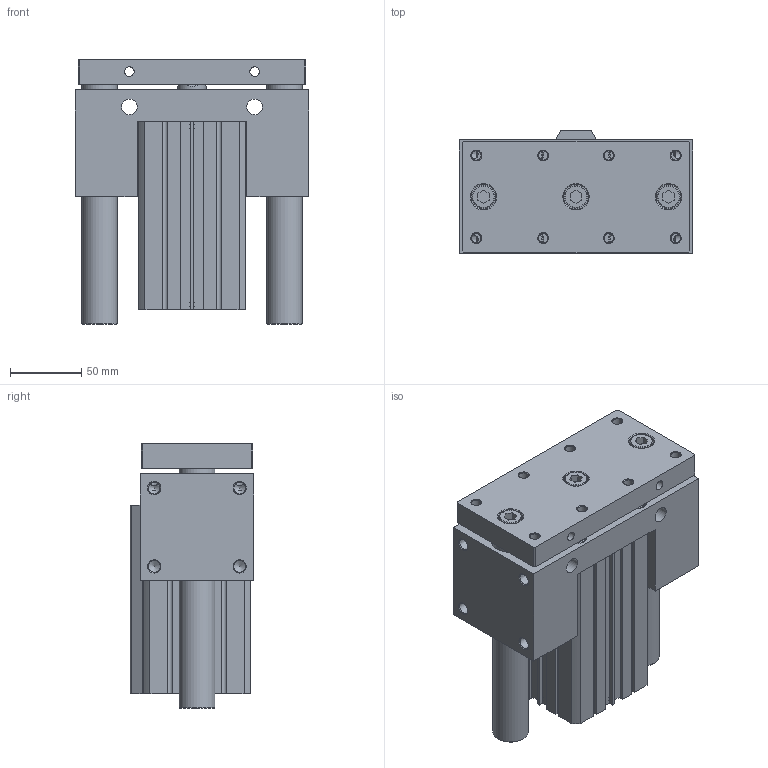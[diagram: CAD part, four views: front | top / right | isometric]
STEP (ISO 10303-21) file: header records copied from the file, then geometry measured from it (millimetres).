
FILE_DESCRIPTION((''),'2;1');
FILE_NAME('I:\3D電子目錄\氣缸\JCB\JCB\JCB63-S\JCB63x90-S.stp','2007-09-01T15:32:41',('Administrator'),(''),'Autodesk Inventor 11','Autodesk Inventor 11','');
FILE_SCHEMA(('AUTOMOTIVE_DESIGN { 1 0 10303 214 1 1 1 1 }'));
Length unit declared in the file: millimetre
Products named in the file (1): JCB63
Bounding box: 164 x 87 x 185.5 mm (x, y, z)
Volume: 1603137 mm3; surface area: 236175.5 mm2
Topology: 3 solids, 5 shells, 343 faces, 829 edges, 538 vertices
Faces by surface type: plane 186, cylinder 62, cone 47, bspline 40, torus 8
Full cylindrical faces by diameter (mm): 3 x2, 6.8 x4, 8.376 x4, 11 x8, 13 x4, 14 x4, 16 x3, 17.5 x3, 20 x1, 21 x1, 25 x2, 28 x2, 40 x1, 47 x1, 65 x4, 68 x2
Entity records: 10008 total; most frequent: CARTESIAN_POINT 2670, DIRECTION 1474, ORIENTED_EDGE 1320, EDGE_CURVE 660, EDGE_LOOP 554, AXIS2_PLACEMENT_3D 532, VERTEX_POINT 498, VECTOR 410
